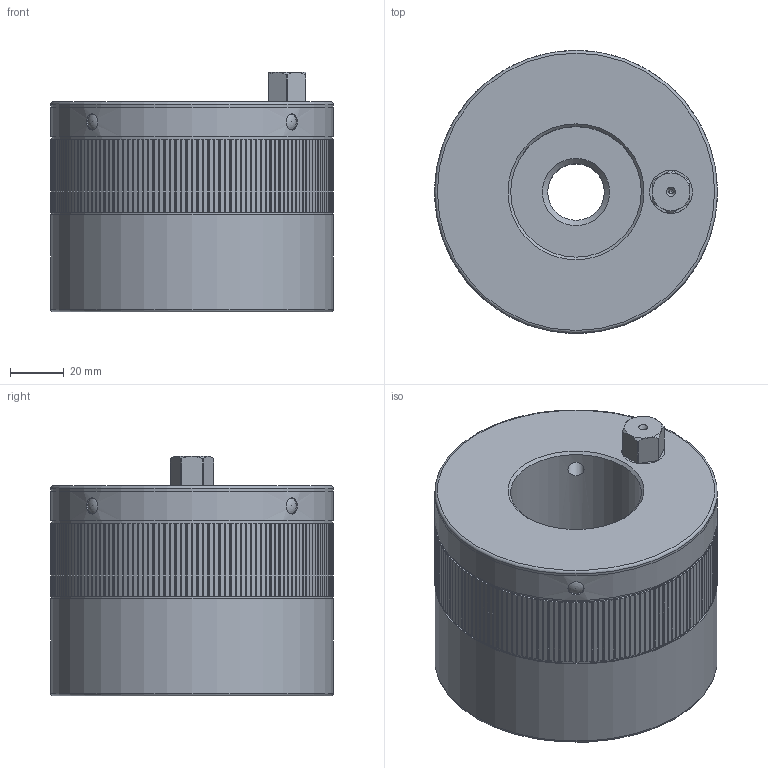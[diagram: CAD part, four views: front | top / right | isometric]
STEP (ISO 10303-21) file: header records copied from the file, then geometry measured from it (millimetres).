
FILE_DESCRIPTION(/* description */ ('Unknown','CAx-IF Rec.Pracs.---Representation and Presentation of Product Manufacturing Information (PMI)---4.0---2014-10-13','CAx-IF Rec.Pracs.---3D Tessellated Geometry---0.4---2014-09-14','2;1'),/* implementation_level */ '2;1');
FILE_NAME(/* name */ 'MDA 180_SW14_M24',/* time_stamp */ '2023-09-15T11:08:04+02:00',/* author */ ('Unknown'),/* organization */ ('Unknown'),/* preprocessor_version */ 'ST-DEVELOPER v18.102',/* originating_system */ 'Solid Edge',/* authorisation */ 'Unknown');
FILE_SCHEMA (('AP242_MANAGED_MODEL_BASED_3D_ENGINEERING_MIM_LF { 1 0 10303 442 1 1 4 }'));
Length unit declared in the file: millimetre
Products named in the file (7): 05933052; 43733051; 42231918; KT100003; 46432086; KT100869; 46331552
Assembly tree (9 placements, depth 2):
  05933052
    43733051
    42231918
    KT100003  x4
    46432086
    KT100869
    46331552
Bounding box: 105 x 105 x 89 mm (x, y, z)
Volume: 523545.3 mm3; surface area: 142829.3 mm2
Topology: 9 solids, 9 shells, 617 faces, 1758 edges, 1160 vertices
Faces by surface type: plane 354, cylinder 205, cone 36, torus 10, sphere 8, bspline 4
Full cylindrical faces by diameter (mm): 1.6 x2, 6 x12, 16 x2, 16.5 x1, 21 x1, 48.5 x1, 62 x3, 83.2 x1, 88 x1, 90 x1, 95.5 x1, 95.9 x1, 96 x3, 104 x2, 105 x3
Entity records: 20001 total; most frequent: CARTESIAN_POINT 3917, ORIENTED_EDGE 3254, DIRECTION 3250, EDGE_CURVE 1627, LINE 1154, VECTOR 1154, VERTEX_POINT 1117, AXIS2_PLACEMENT_3D 1048
